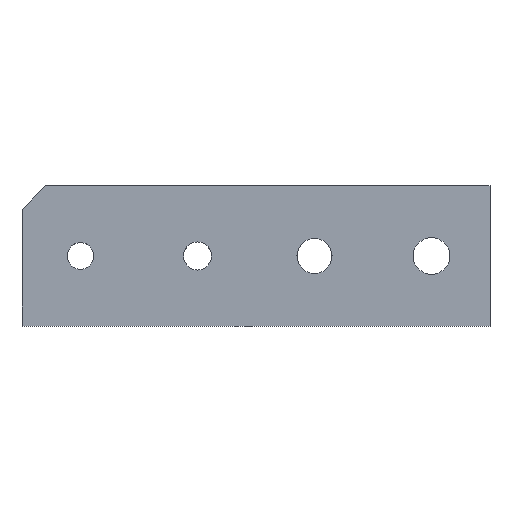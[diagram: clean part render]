
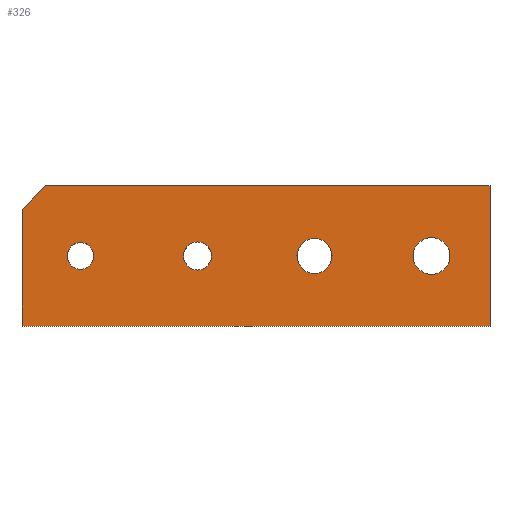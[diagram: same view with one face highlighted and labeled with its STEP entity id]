
A CAD part, top view. The second image highlights one B-rep face of the part: STEP entity #326.
In plain terms, the highlighted planar face has unit normal (0, 0, 1).
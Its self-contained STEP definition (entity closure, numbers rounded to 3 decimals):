
#4 = DIRECTION ( 'NONE',  ( 0., 0., 1. ) ) ;
#15 = VERTEX_POINT ( 'NONE', #257 ) ;
#18 = VERTEX_POINT ( 'NONE', #502 ) ;
#35 = DIRECTION ( 'NONE',  ( 1., 0., 0. ) ) ;
#42 = EDGE_CURVE ( 'NONE', #556, #150, #324, .T. ) ;
#51 = ORIENTED_EDGE ( 'NONE', *, *, #422, .T. ) ;
#54 = DIRECTION ( 'NONE',  ( 0., 0., 1. ) ) ;
#56 = CARTESIAN_POINT ( 'NONE',  ( 7.5, 0., 5. ) ) ;
#59 = VERTEX_POINT ( 'NONE', #428 ) ;
#60 = CARTESIAN_POINT ( 'NONE',  ( -5.7, 0., 5. ) ) ;
#64 = CARTESIAN_POINT ( 'NONE',  ( 24.85, 0., 5. ) ) ;
#70 = AXIS2_PLACEMENT_3D ( 'NONE', #506, #560, #35 ) ;
#71 = EDGE_CURVE ( 'NONE', #15, #18, #83, .T. ) ;
#73 = LINE ( 'NONE', #199, #408 ) ;
#77 = DIRECTION ( 'NONE',  ( 1., 0., 0. ) ) ;
#78 = CARTESIAN_POINT ( 'NONE',  ( 30., 9., 5. ) ) ;
#82 = CARTESIAN_POINT ( 'NONE',  ( 20.15, 0., 5. ) ) ;
#83 = LINE ( 'NONE', #262, #154 ) ;
#99 = FACE_BOUND ( 'NONE', #534, .T. ) ;
#106 = CIRCLE ( 'NONE', #145, 2.35 ) ;
#107 = ORIENTED_EDGE ( 'NONE', *, *, #437, .F. ) ;
#112 = EDGE_CURVE ( 'NONE', #223, #15, #380, .T. ) ;
#114 = DIRECTION ( 'NONE',  ( 0., 0., 1. ) ) ;
#117 = DIRECTION ( 'NONE',  ( 1., 0., 0. ) ) ;
#119 = CARTESIAN_POINT ( 'NONE',  ( -30., 6., 5. ) ) ;
#120 = CARTESIAN_POINT ( 'NONE',  ( -22.5, 0., 5. ) ) ;
#128 = DIRECTION ( 'NONE',  ( -0.707, -0.707, 0. ) ) ;
#129 = EDGE_CURVE ( 'NONE', #150, #556, #390, .T. ) ;
#145 = AXIS2_PLACEMENT_3D ( 'NONE', #528, #54, #272 ) ;
#146 = FACE_BOUND ( 'NONE', #462, .T. ) ;
#150 = VERTEX_POINT ( 'NONE', #252 ) ;
#154 = VECTOR ( 'NONE', #128, 1000. ) ;
#155 = CIRCLE ( 'NONE', #70, 2.35 ) ;
#161 = ORIENTED_EDGE ( 'NONE', *, *, #553, .T. ) ;
#171 = ORIENTED_EDGE ( 'NONE', *, *, #525, .T. ) ;
#172 = VECTOR ( 'NONE', #202, 1000. ) ;
#174 = EDGE_CURVE ( 'NONE', #543, #400, #106, .T. ) ;
#179 = DIRECTION ( 'NONE',  ( 1., 0., 0. ) ) ;
#186 = DIRECTION ( 'NONE',  ( 0., 0., 1. ) ) ;
#189 = EDGE_LOOP ( 'NONE', ( #231, #417 ) ) ;
#196 = PLANE ( 'NONE',  #274 ) ;
#199 = CARTESIAN_POINT ( 'NONE',  ( -30., -9., 5. ) ) ;
#202 = DIRECTION ( 'NONE',  ( 0., -1., 0. ) ) ;
#203 = EDGE_CURVE ( 'NONE', #423, #348, #495, .T. ) ;
#209 = EDGE_CURVE ( 'NONE', #361, #366, #283, .T. ) ;
#217 = DIRECTION ( 'NONE',  ( -1., 0., 0. ) ) ;
#223 = VERTEX_POINT ( 'NONE', #481 ) ;
#226 = ORIENTED_EDGE ( 'NONE', *, *, #71, .T. ) ;
#231 = ORIENTED_EDGE ( 'NONE', *, *, #129, .F. ) ;
#235 = CIRCLE ( 'NONE', #306, 1.8 ) ;
#236 = CARTESIAN_POINT ( 'NONE',  ( -9.3, 0., 5. ) ) ;
#238 = CARTESIAN_POINT ( 'NONE',  ( -30., -9., 5. ) ) ;
#245 = CARTESIAN_POINT ( 'NONE',  ( 7.5, 0., 5. ) ) ;
#248 = ORIENTED_EDGE ( 'NONE', *, *, #321, .F. ) ;
#251 = DIRECTION ( 'NONE',  ( 1., 0., 0. ) ) ;
#252 = CARTESIAN_POINT ( 'NONE',  ( -24.2, 0., 5. ) ) ;
#253 = CARTESIAN_POINT ( 'NONE',  ( 30., -9., 5. ) ) ;
#257 = CARTESIAN_POINT ( 'NONE',  ( -27., 9., 5. ) ) ;
#262 = CARTESIAN_POINT ( 'NONE',  ( -27., 9., 5. ) ) ;
#269 = DIRECTION ( 'NONE',  ( 0., 0., 1. ) ) ;
#272 = DIRECTION ( 'NONE',  ( 1., 0., 0. ) ) ;
#274 = AXIS2_PLACEMENT_3D ( 'NONE', #411, #498, #446 ) ;
#280 = ORIENTED_EDGE ( 'NONE', *, *, #427, .F. ) ;
#283 = CIRCLE ( 'NONE', #441, 1.8 ) ;
#299 = VECTOR ( 'NONE', #217, 1000. ) ;
#306 = AXIS2_PLACEMENT_3D ( 'NONE', #508, #424, #251 ) ;
#321 = EDGE_CURVE ( 'NONE', #348, #423, #476, .T. ) ;
#324 = CIRCLE ( 'NONE', #531, 1.7 ) ;
#326 = ADVANCED_FACE ( 'NONE', ( #146, #360, #538, #368, #99 ), #196, .T. ) ;
#330 = LINE ( 'NONE', #253, #565 ) ;
#334 = AXIS2_PLACEMENT_3D ( 'NONE', #56, #4, #179 ) ;
#335 = CARTESIAN_POINT ( 'NONE',  ( -22.5, 0., 5. ) ) ;
#336 = LINE ( 'NONE', #119, #172 ) ;
#348 = VERTEX_POINT ( 'NONE', #372 ) ;
#360 = FACE_BOUND ( 'NONE', #189, .T. ) ;
#361 = VERTEX_POINT ( 'NONE', #60 ) ;
#366 = VERTEX_POINT ( 'NONE', #236 ) ;
#368 = FACE_BOUND ( 'NONE', #499, .T. ) ;
#372 = CARTESIAN_POINT ( 'NONE',  ( 9.75, 0., 5. ) ) ;
#375 = ORIENTED_EDGE ( 'NONE', *, *, #112, .T. ) ;
#380 = LINE ( 'NONE', #78, #299 ) ;
#390 = CIRCLE ( 'NONE', #522, 1.7 ) ;
#400 = VERTEX_POINT ( 'NONE', #64 ) ;
#405 = VERTEX_POINT ( 'NONE', #238 ) ;
#408 = VECTOR ( 'NONE', #77, 1000. ) ;
#409 = DIRECTION ( 'NONE',  ( 1., 0., 0. ) ) ;
#411 = CARTESIAN_POINT ( 'NONE',  ( 0., 0., 5. ) ) ;
#412 = ORIENTED_EDGE ( 'NONE', *, *, #209, .F. ) ;
#417 = ORIENTED_EDGE ( 'NONE', *, *, #42, .F. ) ;
#421 = CARTESIAN_POINT ( 'NONE',  ( 5.25, 0., 5. ) ) ;
#422 = EDGE_CURVE ( 'NONE', #405, #59, #73, .T. ) ;
#423 = VERTEX_POINT ( 'NONE', #421 ) ;
#424 = DIRECTION ( 'NONE',  ( 0., 0., 1. ) ) ;
#427 = EDGE_CURVE ( 'NONE', #400, #543, #155, .T. ) ;
#428 = CARTESIAN_POINT ( 'NONE',  ( 30., -9., 5. ) ) ;
#437 = EDGE_CURVE ( 'NONE', #366, #361, #235, .T. ) ;
#441 = AXIS2_PLACEMENT_3D ( 'NONE', #521, #269, #484 ) ;
#446 = DIRECTION ( 'NONE',  ( 1., 0., 0. ) ) ;
#453 = EDGE_LOOP ( 'NONE', ( #171, #51, #161, #375, #226 ) ) ;
#455 = ORIENTED_EDGE ( 'NONE', *, *, #174, .F. ) ;
#462 = EDGE_LOOP ( 'NONE', ( #539, #248 ) ) ;
#476 = CIRCLE ( 'NONE', #533, 2.25 ) ;
#481 = CARTESIAN_POINT ( 'NONE',  ( 30., 9., 5. ) ) ;
#484 = DIRECTION ( 'NONE',  ( 1., 0., 0. ) ) ;
#495 = CIRCLE ( 'NONE', #334, 2.25 ) ;
#498 = DIRECTION ( 'NONE',  ( 0., 0., 1. ) ) ;
#499 = EDGE_LOOP ( 'NONE', ( #107, #412 ) ) ;
#501 = DIRECTION ( 'NONE',  ( 0., 1., 0. ) ) ;
#502 = CARTESIAN_POINT ( 'NONE',  ( -30., 6., 5. ) ) ;
#505 = DIRECTION ( 'NONE',  ( 0., 0., 1. ) ) ;
#506 = CARTESIAN_POINT ( 'NONE',  ( 22.5, 0., 5. ) ) ;
#508 = CARTESIAN_POINT ( 'NONE',  ( -7.5, 0., 5. ) ) ;
#521 = CARTESIAN_POINT ( 'NONE',  ( -7.5, 0., 5. ) ) ;
#522 = AXIS2_PLACEMENT_3D ( 'NONE', #335, #505, #117 ) ;
#525 = EDGE_CURVE ( 'NONE', #18, #405, #336, .T. ) ;
#528 = CARTESIAN_POINT ( 'NONE',  ( 22.5, 0., 5. ) ) ;
#531 = AXIS2_PLACEMENT_3D ( 'NONE', #120, #114, #562 ) ;
#533 = AXIS2_PLACEMENT_3D ( 'NONE', #245, #186, #409 ) ;
#534 = EDGE_LOOP ( 'NONE', ( #455, #280 ) ) ;
#538 = FACE_OUTER_BOUND ( 'NONE', #453, .T. ) ;
#539 = ORIENTED_EDGE ( 'NONE', *, *, #203, .F. ) ;
#543 = VERTEX_POINT ( 'NONE', #82 ) ;
#553 = EDGE_CURVE ( 'NONE', #59, #223, #330, .T. ) ;
#556 = VERTEX_POINT ( 'NONE', #557 ) ;
#557 = CARTESIAN_POINT ( 'NONE',  ( -20.8, 0., 5. ) ) ;
#560 = DIRECTION ( 'NONE',  ( 0., 0., 1. ) ) ;
#562 = DIRECTION ( 'NONE',  ( 1., 0., 0. ) ) ;
#565 = VECTOR ( 'NONE', #501, 1000. ) ;
